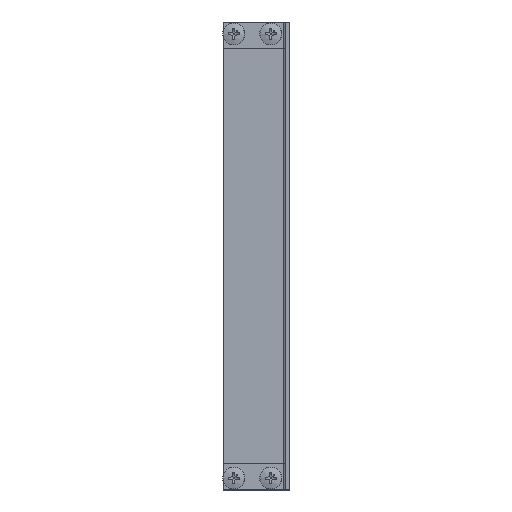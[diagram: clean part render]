
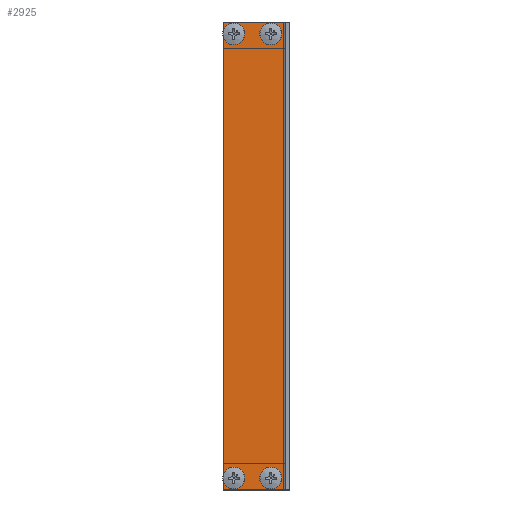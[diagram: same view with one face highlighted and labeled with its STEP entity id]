
A CAD part, left-side view. The second image highlights one B-rep face of the part: STEP entity #2925.
In plain terms, the highlighted planar face has unit normal (-1, 0, 0) as drawn and (1, 0, 0) by its records, which use the part's own axes.
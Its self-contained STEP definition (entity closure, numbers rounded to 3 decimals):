
#2620=CARTESIAN_POINT('',(16.,21.0,0.0));
#2621=VERTEX_POINT('',#2620);
#2622=CARTESIAN_POINT('',(16.,0.0,0.0));
#2623=DIRECTION('',(-1.0,0.0,0.0));
#2624=DIRECTION('',(0.0,1.0,0.0));
#2625=AXIS2_PLACEMENT_3D('',#2622,#2623,#2624);
#2626=CIRCLE('',#2625,21.0);
#2627=EDGE_CURVE('',#2621,#2621,#2626,.T.);
#2648=CARTESIAN_POINT('',(16.,161.0,0.0));
#2649=VERTEX_POINT('',#2648);
#2650=CARTESIAN_POINT('',(16.,140.0,0.0));
#2651=DIRECTION('',(-1.0,0.0,0.0));
#2652=DIRECTION('',(0.0,1.0,0.0));
#2653=AXIS2_PLACEMENT_3D('',#2650,#2651,#2652);
#2654=CIRCLE('',#2653,21.0);
#2655=EDGE_CURVE('',#2649,#2649,#2654,.T.);
#2676=CARTESIAN_POINT('',(16.,21.0,-1680.0));
#2677=VERTEX_POINT('',#2676);
#2678=CARTESIAN_POINT('',(16.,0.0,-1680.0));
#2679=DIRECTION('',(-1.0,0.0,0.0));
#2680=DIRECTION('',(0.0,1.0,0.0));
#2681=AXIS2_PLACEMENT_3D('',#2678,#2679,#2680);
#2682=CIRCLE('',#2681,21.0);
#2683=EDGE_CURVE('',#2677,#2677,#2682,.T.);
#2704=CARTESIAN_POINT('',(16.,161.0,-1680.0));
#2705=VERTEX_POINT('',#2704);
#2706=CARTESIAN_POINT('',(16.,140.0,-1680.0));
#2707=DIRECTION('',(-1.0,0.0,0.0));
#2708=DIRECTION('',(0.0,1.0,0.0));
#2709=AXIS2_PLACEMENT_3D('',#2706,#2707,#2708);
#2710=CIRCLE('',#2709,21.0);
#2711=EDGE_CURVE('',#2705,#2705,#2710,.T.);
#2772=CARTESIAN_POINT('',(16.,180.,-1725.0));
#2773=VERTEX_POINT('',#2772);
#2780=CARTESIAN_POINT('',(16.,-49.,-1725.0));
#2781=VERTEX_POINT('',#2780);
#2782=CARTESIAN_POINT('',(16.,-49.,-1725.0));
#2783=DIRECTION('',(0.0,1.0,0.0));
#2784=VECTOR('',#2783,229.0);
#2785=LINE('',#2782,#2784);
#2786=EDGE_CURVE('',#2781,#2773,#2785,.T.);
#2864=CARTESIAN_POINT('',(16.,-49.,45.0));
#2865=VERTEX_POINT('',#2864);
#2866=CARTESIAN_POINT('',(16.,-49.,-1725.0));
#2867=DIRECTION('',(0.0,0.0,1.0));
#2868=VECTOR('',#2867,1770.0);
#2869=LINE('',#2866,#2868);
#2870=EDGE_CURVE('',#2781,#2865,#2869,.T.);
#2890=CARTESIAN_POINT('',(16.,180.,-1725.0));
#2891=DIRECTION('',(1.0,0.0,0.0));
#2892=DIRECTION('',(0.0,0.0,-1.0));
#2893=AXIS2_PLACEMENT_3D('',#2890,#2891,#2892);
#2894=PLANE('',#2893);
#2895=ORIENTED_EDGE('',*,*,#2870,.F.);
#2896=ORIENTED_EDGE('',*,*,#2786,.T.);
#2897=CARTESIAN_POINT('',(16.,180.,45.0));
#2898=VERTEX_POINT('',#2897);
#2899=CARTESIAN_POINT('',(16.,180.,-1725.0));
#2900=DIRECTION('',(0.0,0.0,1.0));
#2901=VECTOR('',#2900,1770.0);
#2902=LINE('',#2899,#2901);
#2903=EDGE_CURVE('',#2773,#2898,#2902,.T.);
#2904=ORIENTED_EDGE('',*,*,#2903,.T.);
#2905=CARTESIAN_POINT('',(16.,180.,45.0));
#2906=DIRECTION('',(0.0,-1.0,0.0));
#2907=VECTOR('',#2906,229.0);
#2908=LINE('',#2905,#2907);
#2909=EDGE_CURVE('',#2898,#2865,#2908,.T.);
#2910=ORIENTED_EDGE('',*,*,#2909,.T.);
#2911=EDGE_LOOP('',(#2895,#2896,#2904,#2910));
#2912=FACE_OUTER_BOUND('',#2911,.T.);
#2913=ORIENTED_EDGE('',*,*,#2627,.T.);
#2914=EDGE_LOOP('',(#2913));
#2915=FACE_BOUND('',#2914,.T.);
#2916=ORIENTED_EDGE('',*,*,#2655,.T.);
#2917=EDGE_LOOP('',(#2916));
#2918=FACE_BOUND('',#2917,.T.);
#2919=ORIENTED_EDGE('',*,*,#2683,.T.);
#2920=EDGE_LOOP('',(#2919));
#2921=FACE_BOUND('',#2920,.T.);
#2922=ORIENTED_EDGE('',*,*,#2711,.T.);
#2923=EDGE_LOOP('',(#2922));
#2924=FACE_BOUND('',#2923,.T.);
#2925=ADVANCED_FACE('',(#2912,#2915,#2918,#2921,#2924),#2894,.T.);
